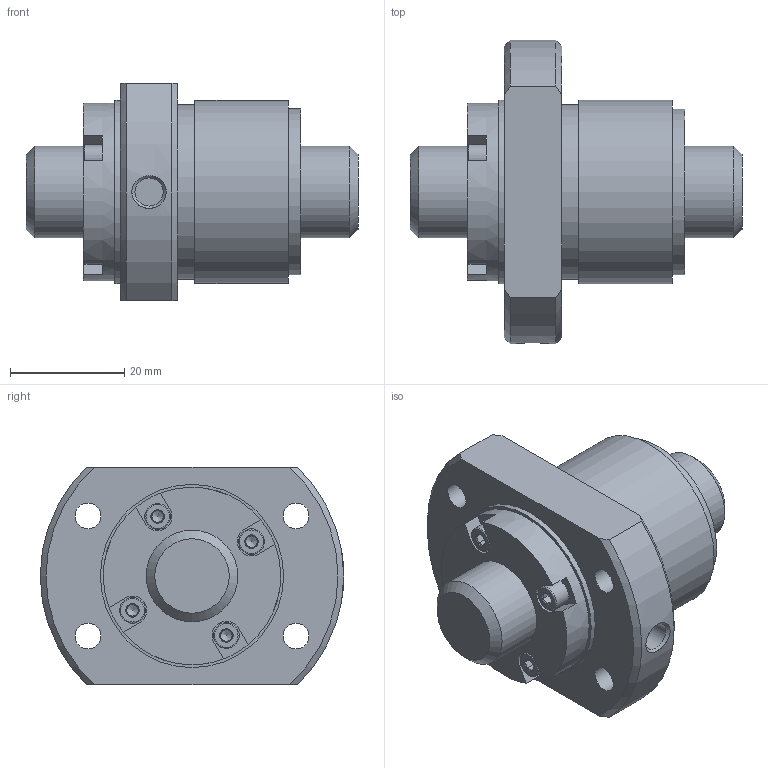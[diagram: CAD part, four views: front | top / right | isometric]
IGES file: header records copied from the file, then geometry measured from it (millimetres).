
Start section: Data from Parasolid IGES Translator 26.0.171, Copyright(c) 2006 Siemens PLM Software. All Rights Reserved.
Global section: file name: BLK1616-3.6G1+58LC3_N0_1300.igs; native system: By Siemens PLM Incorporated; preprocessor: XPlus GENERIC/IGES 26.0.171; author: Noname; organization: Noname; date: 20250116.070438; units: millimetre
Bounding box: 58 x 53 x 38 mm (x, y, z)
Surface area: 13860 mm2 (no closed solid volume)
Topology: 0 solids, 0 shells, 123 faces, 590 edges, 544 vertices
Faces by surface type: extrusion 76, revolution 47
